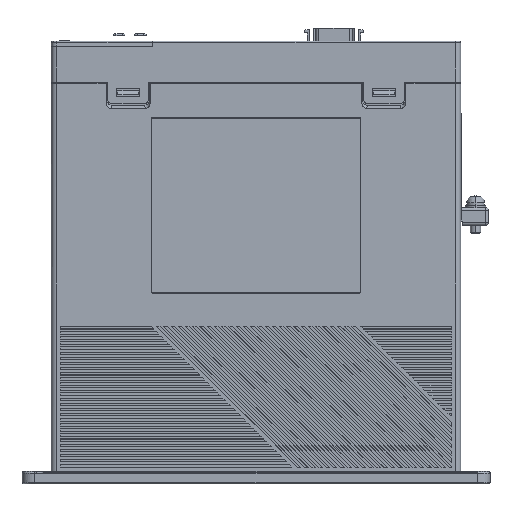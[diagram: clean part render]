
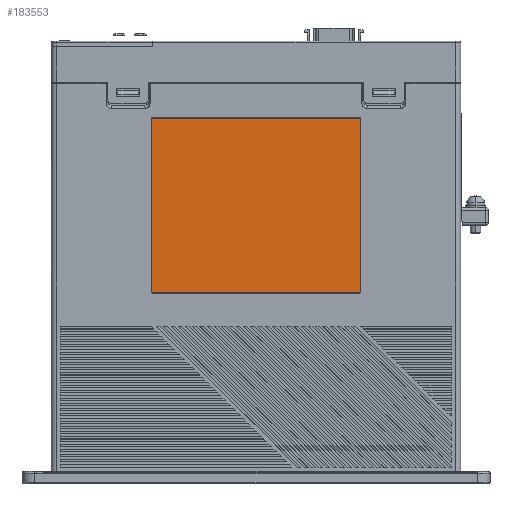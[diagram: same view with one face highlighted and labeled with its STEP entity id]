
A CAD part, top view. The second image highlights one B-rep face of the part: STEP entity #183553.
In plain terms, the highlighted planar face has unit normal (0, 0, 1).
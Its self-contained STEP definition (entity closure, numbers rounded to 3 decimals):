
#173308=CARTESIAN_POINT('',(-40.5,75.1,24.65));
#173309=DIRECTION('',(0.,0.,-1.));
#173310=DIRECTION('',(0.,-1.,0.));
#173311=AXIS2_PLACEMENT_3D('',#173308,#173309,#173310);
#173313=DIRECTION('',(0.,1.,0.));
#173314=VECTOR('',#173313,67.4);
#173315=CARTESIAN_POINT('',(-41.,75.1,24.65));
#173316=LINE('',#173315,#173314);
#173317=CARTESIAN_POINT('',(-40.5,142.5,24.65));
#173318=DIRECTION('',(0.,0.,-1.));
#173319=DIRECTION('',(-1.,0.,0.));
#173320=AXIS2_PLACEMENT_3D('',#173317,#173318,#173319);
#173322=DIRECTION('',(1.,0.,0.));
#173323=VECTOR('',#173322,81.);
#173324=CARTESIAN_POINT('',(-40.5,143.,24.65));
#173325=LINE('',#173324,#173323);
#173326=CARTESIAN_POINT('',(40.5,142.5,24.65));
#173327=DIRECTION('',(0.,0.,-1.));
#173328=DIRECTION('',(0.,1.,0.));
#173329=AXIS2_PLACEMENT_3D('',#173326,#173327,#173328);
#173331=DIRECTION('',(0.,-1.,0.));
#173332=VECTOR('',#173331,67.4);
#173333=CARTESIAN_POINT('',(41.,142.5,24.65));
#173334=LINE('',#173333,#173332);
#173335=CARTESIAN_POINT('',(40.5,75.1,24.65));
#173336=DIRECTION('',(0.,0.,-1.));
#173337=DIRECTION('',(1.,0.,0.));
#173338=AXIS2_PLACEMENT_3D('',#173335,#173336,#173337);
#173340=DIRECTION('',(-1.,0.,0.));
#173341=VECTOR('',#173340,81.);
#173342=CARTESIAN_POINT('',(40.5,74.6,24.65));
#173343=LINE('',#173342,#173341);
#178809=CARTESIAN_POINT('',(-41.,75.1,24.65));
#178810=CARTESIAN_POINT('',(-41.,142.5,24.65));
#178811=VERTEX_POINT('',#178809);
#178812=VERTEX_POINT('',#178810);
#178813=CARTESIAN_POINT('',(-40.5,74.6,24.65));
#178814=VERTEX_POINT('',#178813);
#178815=CARTESIAN_POINT('',(-40.5,143.,24.65));
#178816=VERTEX_POINT('',#178815);
#178817=CARTESIAN_POINT('',(40.5,143.,24.65));
#178818=VERTEX_POINT('',#178817);
#178819=CARTESIAN_POINT('',(41.,142.5,24.65));
#178820=VERTEX_POINT('',#178819);
#178821=CARTESIAN_POINT('',(41.,75.1,24.65));
#178822=VERTEX_POINT('',#178821);
#178823=CARTESIAN_POINT('',(40.5,74.6,24.65));
#178824=VERTEX_POINT('',#178823);
#183530=CARTESIAN_POINT('',(0.,5.,24.65));
#183531=DIRECTION('',(0.,0.,1.));
#183532=DIRECTION('',(0.,1.,0.));
#183533=AXIS2_PLACEMENT_3D('',#183530,#183531,#183532);
#183534=PLANE('',#183533);
#183536=ORIENTED_EDGE('',*,*,#183535,.T.);
#183538=ORIENTED_EDGE('',*,*,#183537,.T.);
#183540=ORIENTED_EDGE('',*,*,#183539,.T.);
#183542=ORIENTED_EDGE('',*,*,#183541,.T.);
#183544=ORIENTED_EDGE('',*,*,#183543,.T.);
#183546=ORIENTED_EDGE('',*,*,#183545,.T.);
#183548=ORIENTED_EDGE('',*,*,#183547,.T.);
#183550=ORIENTED_EDGE('',*,*,#183549,.T.);
#183551=EDGE_LOOP('',(#183536,#183538,#183540,#183542,#183544,#183546,#183548,
#183550));
#183552=FACE_OUTER_BOUND('',#183551,.F.);
#173312=CIRCLE('',#173311,0.5);
#173321=CIRCLE('',#173320,0.5);
#173330=CIRCLE('',#173329,0.5);
#173339=CIRCLE('',#173338,0.5);
#183535=EDGE_CURVE('',#178814,#178811,#173312,.T.);
#183537=EDGE_CURVE('',#178811,#178812,#173316,.T.);
#183539=EDGE_CURVE('',#178812,#178816,#173321,.T.);
#183541=EDGE_CURVE('',#178816,#178818,#173325,.T.);
#183543=EDGE_CURVE('',#178818,#178820,#173330,.T.);
#183545=EDGE_CURVE('',#178820,#178822,#173334,.T.);
#183547=EDGE_CURVE('',#178822,#178824,#173339,.T.);
#183549=EDGE_CURVE('',#178824,#178814,#173343,.T.);
#183553=ADVANCED_FACE('',(#183552),#183534,.T.);
